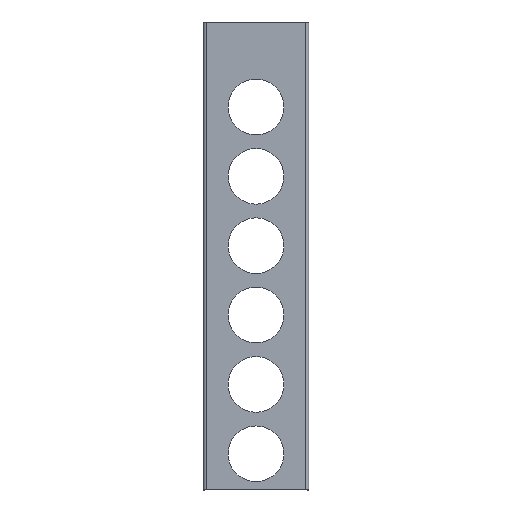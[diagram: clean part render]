
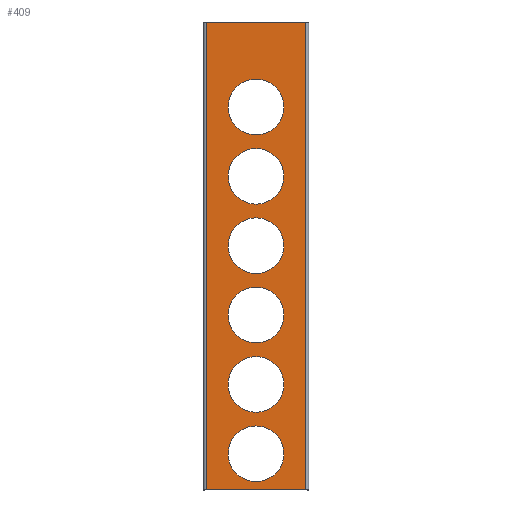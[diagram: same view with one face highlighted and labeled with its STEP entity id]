
A CAD part, top view. The second image highlights one B-rep face of the part: STEP entity #409.
In plain terms, the highlighted planar face has unit normal (0, 0, 1).
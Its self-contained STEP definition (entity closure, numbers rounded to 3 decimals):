
#6 = CARTESIAN_POINT ( 'NONE',  ( 0., 321., 40. ) ) ;
#7 = VERTEX_POINT ( 'NONE', #165 ) ;
#9 = DIRECTION ( 'NONE',  ( 1., 0., 0. ) ) ;
#10 = DIRECTION ( 'NONE',  ( 0., 0., -1. ) ) ;
#11 = CARTESIAN_POINT ( 'NONE',  ( 0., 37., 40. ) ) ;
#16 = CARTESIAN_POINT ( 'NONE',  ( 0., 179., 40. ) ) ;
#30 = CARTESIAN_POINT ( 'NONE',  ( 28.5, 321., 40. ) ) ;
#32 = CARTESIAN_POINT ( 'NONE',  ( 28.5, 108., 40. ) ) ;
#40 = VERTEX_POINT ( 'NONE', #85 ) ;
#43 = VERTEX_POINT ( 'NONE', #243 ) ;
#44 = DIRECTION ( 'NONE',  ( 1., 0., 0. ) ) ;
#46 = DIRECTION ( 'NONE',  ( 0., 0., -1. ) ) ;
#48 = CARTESIAN_POINT ( 'NONE',  ( 0., 392., 40. ) ) ;
#50 = VERTEX_POINT ( 'NONE', #361 ) ;
#61 = DIRECTION ( 'NONE',  ( 0., -1., 0. ) ) ;
#62 = DIRECTION ( 'NONE',  ( 1., 0., 0. ) ) ;
#64 = CARTESIAN_POINT ( 'NONE',  ( -51., 479., 40. ) ) ;
#69 = CARTESIAN_POINT ( 'NONE',  ( 28.5, 250., 40. ) ) ;
#77 = CARTESIAN_POINT ( 'NONE',  ( -28.5, 37., 40. ) ) ;
#81 = DIRECTION ( 'NONE',  ( 0., 1., 0. ) ) ;
#84 = CARTESIAN_POINT ( 'NONE',  ( 51., 429., 40. ) ) ;
#85 = CARTESIAN_POINT ( 'NONE',  ( -28.5, 392., 40. ) ) ;
#86 = CARTESIAN_POINT ( 'NONE',  ( -28.5, 250., 40. ) ) ;
#94 = PLANE ( 'NONE',  #858 ) ;
#95 = DIRECTION ( 'NONE',  ( 1., 0., 0. ) ) ;
#97 = DIRECTION ( 'NONE',  ( 0., 0., -1. ) ) ;
#98 = CARTESIAN_POINT ( 'NONE',  ( 0., 250., 40. ) ) ;
#104 = CARTESIAN_POINT ( 'NONE',  ( -51., 479., 40. ) ) ;
#124 = CARTESIAN_POINT ( 'NONE',  ( 51., 0., 40. ) ) ;
#125 = VERTEX_POINT ( 'NONE', #132 ) ;
#132 = CARTESIAN_POINT ( 'NONE',  ( 51., 479., 40. ) ) ;
#145 = CARTESIAN_POINT ( 'NONE',  ( -28.5, 321., 40. ) ) ;
#158 = VERTEX_POINT ( 'NONE', #167 ) ;
#165 = CARTESIAN_POINT ( 'NONE',  ( 28.5, 179., 40. ) ) ;
#167 = CARTESIAN_POINT ( 'NONE',  ( -51., 0., 40. ) ) ;
#173 = VERTEX_POINT ( 'NONE', #145 ) ;
#181 = VERTEX_POINT ( 'NONE', #32 ) ;
#185 = CARTESIAN_POINT ( 'NONE',  ( 28.5, 392., 40. ) ) ;
#194 = VERTEX_POINT ( 'NONE', #86 ) ;
#197 = DIRECTION ( 'NONE',  ( 1., 0., 0. ) ) ;
#202 = DIRECTION ( 'NONE',  ( 0., 0., -1. ) ) ;
#208 = CARTESIAN_POINT ( 'NONE',  ( 0., 37., 40. ) ) ;
#243 = CARTESIAN_POINT ( 'NONE',  ( -28.5, 108., 40. ) ) ;
#257 = CARTESIAN_POINT ( 'NONE',  ( -28.5, 179., 40. ) ) ;
#264 = CARTESIAN_POINT ( 'NONE',  ( 2., 239.5, 40. ) ) ;
#283 = VERTEX_POINT ( 'NONE', #104 ) ;
#284 = DIRECTION ( 'NONE',  ( 1., 0., 0. ) ) ;
#285 = VERTEX_POINT ( 'NONE', #124 ) ;
#286 = DIRECTION ( 'NONE',  ( 0., 0., -1. ) ) ;
#292 = DIRECTION ( 'NONE',  ( 0., 0., -1. ) ) ;
#293 = DIRECTION ( 'NONE',  ( 1., 0., 0. ) ) ;
#297 = CARTESIAN_POINT ( 'NONE',  ( 0., 321., 40. ) ) ;
#298 = DIRECTION ( 'NONE',  ( 0., 0., -1. ) ) ;
#306 = CARTESIAN_POINT ( 'NONE',  ( 0., 108., 40. ) ) ;
#308 = DIRECTION ( 'NONE',  ( 1., 0., 0. ) ) ;
#309 = DIRECTION ( 'NONE',  ( 0., 0., -1. ) ) ;
#312 = DIRECTION ( 'NONE',  ( -1., 0., 0. ) ) ;
#314 = CARTESIAN_POINT ( 'NONE',  ( -47., 0., 40. ) ) ;
#317 = DIRECTION ( 'NONE',  ( -1., 0., 0. ) ) ;
#320 = CARTESIAN_POINT ( 'NONE',  ( 0., 250., 40. ) ) ;
#341 = VERTEX_POINT ( 'NONE', #30 ) ;
#342 = CARTESIAN_POINT ( 'NONE',  ( -48., 479., 40. ) ) ;
#343 = DIRECTION ( 'NONE',  ( 1., 0., 0. ) ) ;
#344 = VERTEX_POINT ( 'NONE', #69 ) ;
#345 = DIRECTION ( 'NONE',  ( 0., 0., -1. ) ) ;
#347 = CARTESIAN_POINT ( 'NONE',  ( 0., 392., 40. ) ) ;
#358 = VERTEX_POINT ( 'NONE', #77 ) ;
#361 = CARTESIAN_POINT ( 'NONE',  ( 28.5, 37., 40. ) ) ;
#364 = DIRECTION ( 'NONE',  ( 1., 0., 0. ) ) ;
#365 = DIRECTION ( 'NONE',  ( 0., 0., -1. ) ) ;
#367 = DIRECTION ( 'NONE',  ( 1., 0., 0. ) ) ;
#368 = DIRECTION ( 'NONE',  ( 0., 0., -1. ) ) ;
#372 = DIRECTION ( 'NONE',  ( 0., 0., 1. ) ) ;
#373 = CARTESIAN_POINT ( 'NONE',  ( 0., 108., 40. ) ) ;
#375 = CARTESIAN_POINT ( 'NONE',  ( 0., 179., 40. ) ) ;
#376 = DIRECTION ( 'NONE',  ( 1., 0., 0. ) ) ;
#380 = DIRECTION ( 'NONE',  ( 1., 0., 0. ) ) ;
#382 = VERTEX_POINT ( 'NONE', #185 ) ;
#384 = DIRECTION ( 'NONE',  ( 0., 0., -1. ) ) ;
#385 = VERTEX_POINT ( 'NONE', #257 ) ;
#409 = ADVANCED_FACE ( 'NONE', ( #585, #553, #563, #596, #562, #565, #650 ), #94, .T. ) ;
#418 = ORIENTED_EDGE ( 'NONE', *, *, #851, .T. ) ;
#421 = ORIENTED_EDGE ( 'NONE', *, *, #846, .T. ) ;
#429 = ORIENTED_EDGE ( 'NONE', *, *, #866, .T. ) ;
#435 = ORIENTED_EDGE ( 'NONE', *, *, #855, .T. ) ;
#437 = EDGE_LOOP ( 'NONE', ( #451, #474 ) ) ;
#449 = ORIENTED_EDGE ( 'NONE', *, *, #876, .T. ) ;
#451 = ORIENTED_EDGE ( 'NONE', *, *, #822, .T. ) ;
#455 = ORIENTED_EDGE ( 'NONE', *, *, #823, .T. ) ;
#459 = ORIENTED_EDGE ( 'NONE', *, *, #826, .T. ) ;
#460 = ORIENTED_EDGE ( 'NONE', *, *, #854, .T. ) ;
#461 = ORIENTED_EDGE ( 'NONE', *, *, #795, .T. ) ;
#462 = ORIENTED_EDGE ( 'NONE', *, *, #888, .T. ) ;
#470 = ORIENTED_EDGE ( 'NONE', *, *, #806, .T. ) ;
#471 = ORIENTED_EDGE ( 'NONE', *, *, #852, .T. ) ;
#474 = ORIENTED_EDGE ( 'NONE', *, *, #792, .T. ) ;
#493 = ORIENTED_EDGE ( 'NONE', *, *, #831, .T. ) ;
#496 = EDGE_LOOP ( 'NONE', ( #471, #462 ) ) ;
#504 = EDGE_LOOP ( 'NONE', ( #493, #429 ) ) ;
#506 = EDGE_LOOP ( 'NONE', ( #459, #551, #455, #449 ) ) ;
#507 = EDGE_LOOP ( 'NONE', ( #460, #461 ) ) ;
#509 = EDGE_LOOP ( 'NONE', ( #418, #470 ) ) ;
#515 = EDGE_LOOP ( 'NONE', ( #421, #435 ) ) ;
#551 = ORIENTED_EDGE ( 'NONE', *, *, #878, .F. ) ;
#553 = FACE_BOUND ( 'NONE', #437, .T. ) ;
#557 = CIRCLE ( 'NONE', #918, 28.5 ) ;
#562 = FACE_BOUND ( 'NONE', #515, .T. ) ;
#563 = FACE_BOUND ( 'NONE', #504, .T. ) ;
#565 = FACE_BOUND ( 'NONE', #509, .T. ) ;
#576 = LINE ( 'NONE', #84, #744 ) ;
#585 = FACE_BOUND ( 'NONE', #507, .T. ) ;
#587 = LINE ( 'NONE', #314, #588 ) ;
#588 = VECTOR ( 'NONE', #312, 1000. ) ;
#596 = FACE_BOUND ( 'NONE', #496, .T. ) ;
#600 = CIRCLE ( 'NONE', #839, 28.5 ) ;
#601 = CIRCLE ( 'NONE', #782, 28.5 ) ;
#637 = LINE ( 'NONE', #64, #707 ) ;
#650 = FACE_OUTER_BOUND ( 'NONE', #506, .T. ) ;
#657 = CIRCLE ( 'NONE', #864, 28.5 ) ;
#667 = CIRCLE ( 'NONE', #856, 28.5 ) ;
#681 = CIRCLE ( 'NONE', #874, 28.5 ) ;
#696 = CIRCLE ( 'NONE', #905, 28.5 ) ;
#699 = CIRCLE ( 'NONE', #842, 28.5 ) ;
#703 = LINE ( 'NONE', #342, #759 ) ;
#707 = VECTOR ( 'NONE', #61, 1000. ) ;
#719 = CIRCLE ( 'NONE', #801, 28.5 ) ;
#722 = CIRCLE ( 'NONE', #865, 28.5 ) ;
#728 = CIRCLE ( 'NONE', #797, 28.5 ) ;
#738 = CIRCLE ( 'NONE', #793, 28.5 ) ;
#744 = VECTOR ( 'NONE', #81, 1000. ) ;
#759 = VECTOR ( 'NONE', #317, 1000. ) ;
#782 = AXIS2_PLACEMENT_3D ( 'NONE', #306, #298, #293 ) ;
#792 = EDGE_CURVE ( 'NONE', #194, #344, #738, .T. ) ;
#793 = AXIS2_PLACEMENT_3D ( 'NONE', #320, #309, #308 ) ;
#795 = EDGE_CURVE ( 'NONE', #43, #181, #601, .T. ) ;
#797 = AXIS2_PLACEMENT_3D ( 'NONE', #373, #368, #367 ) ;
#801 = AXIS2_PLACEMENT_3D ( 'NONE', #11, #292, #62 ) ;
#806 = EDGE_CURVE ( 'NONE', #358, #50, #657, .T. ) ;
#822 = EDGE_CURVE ( 'NONE', #344, #194, #667, .T. ) ;
#823 = EDGE_CURVE ( 'NONE', #285, #125, #576, .T. ) ;
#826 = EDGE_CURVE ( 'NONE', #283, #158, #637, .T. ) ;
#831 = EDGE_CURVE ( 'NONE', #382, #40, #557, .T. ) ;
#839 = AXIS2_PLACEMENT_3D ( 'NONE', #297, #286, #284 ) ;
#842 = AXIS2_PLACEMENT_3D ( 'NONE', #375, #365, #364 ) ;
#846 = EDGE_CURVE ( 'NONE', #7, #385, #681, .T. ) ;
#851 = EDGE_CURVE ( 'NONE', #50, #358, #719, .T. ) ;
#852 = EDGE_CURVE ( 'NONE', #341, #173, #696, .T. ) ;
#854 = EDGE_CURVE ( 'NONE', #181, #43, #728, .T. ) ;
#855 = EDGE_CURVE ( 'NONE', #385, #7, #699, .T. ) ;
#856 = AXIS2_PLACEMENT_3D ( 'NONE', #98, #97, #95 ) ;
#858 = AXIS2_PLACEMENT_3D ( 'NONE', #264, #372, #376 ) ;
#864 = AXIS2_PLACEMENT_3D ( 'NONE', #208, #202, #197 ) ;
#865 = AXIS2_PLACEMENT_3D ( 'NONE', #347, #345, #343 ) ;
#866 = EDGE_CURVE ( 'NONE', #40, #382, #722, .T. ) ;
#874 = AXIS2_PLACEMENT_3D ( 'NONE', #16, #10, #9 ) ;
#876 = EDGE_CURVE ( 'NONE', #125, #283, #703, .T. ) ;
#878 = EDGE_CURVE ( 'NONE', #285, #158, #587, .T. ) ;
#888 = EDGE_CURVE ( 'NONE', #173, #341, #600, .T. ) ;
#905 = AXIS2_PLACEMENT_3D ( 'NONE', #6, #384, #380 ) ;
#918 = AXIS2_PLACEMENT_3D ( 'NONE', #48, #46, #44 ) ;
